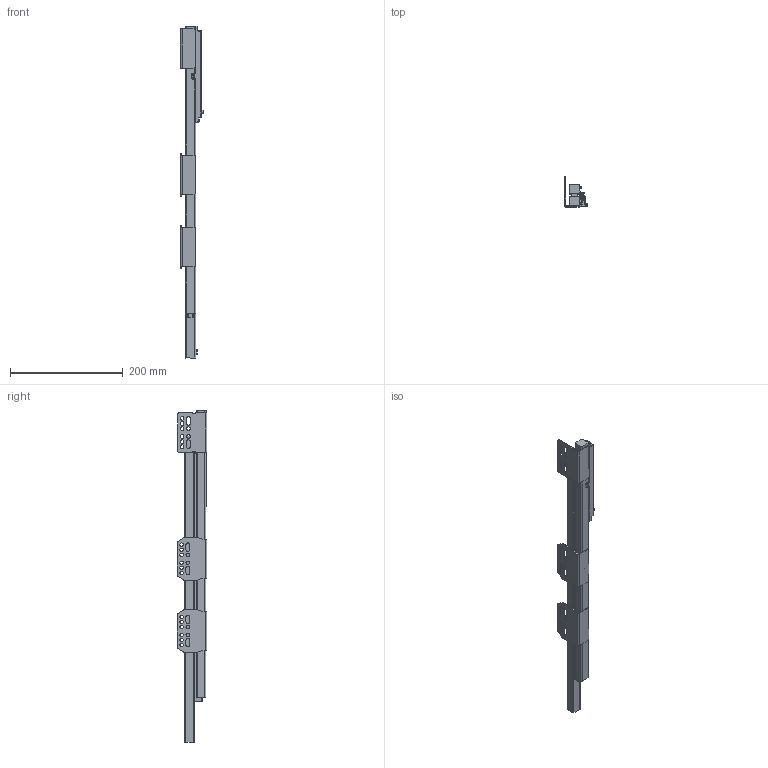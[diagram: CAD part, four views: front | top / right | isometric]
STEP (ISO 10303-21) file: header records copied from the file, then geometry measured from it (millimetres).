
FILE_DESCRIPTION (( 'STEP AP203' ), '1' );
FILE_NAME ('HB016004GX-L(闭合).STEP', '2025-05-13T07:27:27', ( '微软用户' ), ( '微软中国' ), 'SwSTEP 2.0', 'SolidWorks 2021', '' );
FILE_SCHEMA (( 'CONFIG_CONTROL_DESIGN' ));
Length unit declared in the file: millimetre
Products named in the file (1): HB016004GX-L(敕磁)
Bounding box: 40.83 x 53 x 588.9 mm (x, y, z)
Volume: 381528.4 mm3; surface area: 102920.6 mm2
Topology: 3 solids, 48 shells, 1709 faces, 4458 edges, 2829 vertices
Faces by surface type: plane 600, cylinder 521, bspline 356, torus 158, cone 66, sphere 8
Entity records: 92687 total; most frequent: CARTESIAN_POINT 53293, ORIENTED_EDGE 8852, DIRECTION 7267, EDGE_CURVE 4426, VERTEX_POINT 2829, AXIS2_PLACEMENT_3D 2569, VECTOR 2129, LINE 2129
